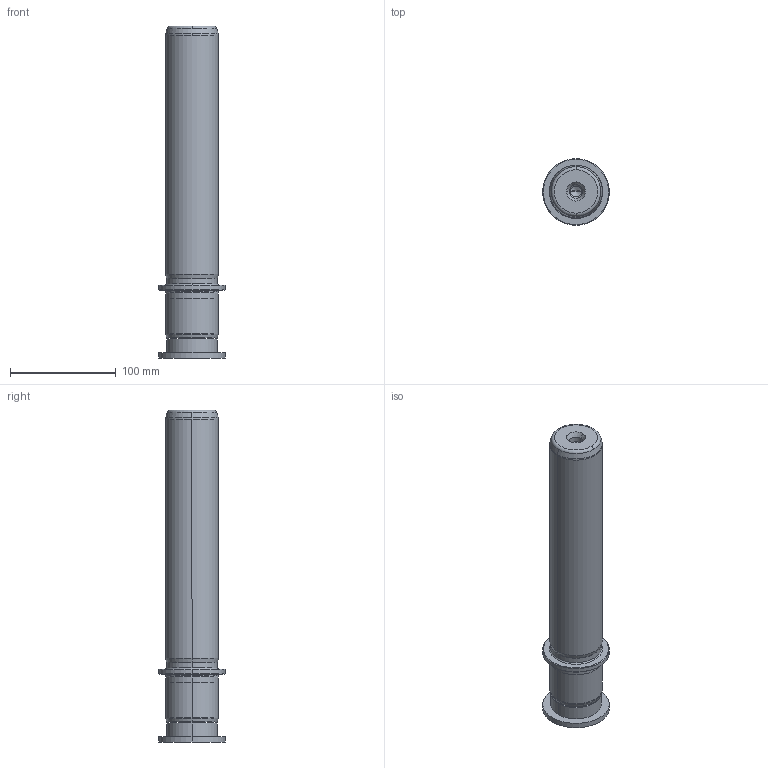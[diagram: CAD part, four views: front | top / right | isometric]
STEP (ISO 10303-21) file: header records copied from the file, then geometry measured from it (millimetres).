
FILE_DESCRIPTION((''),'2;1');
FILE_NAME('P22_050_250.stp','2009-11-02T10:50:09',(''),(''),'Mechanical Desktop 2009','Mechanical Desktop 2009',', , ');
FILE_SCHEMA(('CONFIG_CONTROL_DESIGN'));
Length unit declared in the file: millimetre
Products named in the file (2): Product; blmdl1
Assembly tree (1 placements, depth 2):
  Product
    blmdl1
Bounding box: 63 x 63 x 314 mm (x, y, z)
Volume: 614637.5 mm3; surface area: 66986.5 mm2
Topology: 3 solids, 3 shells, 99 faces, 237 edges, 149 vertices
Faces by surface type: cylinder 32, cone 28, plane 19, torus 10, bspline 10
Entity records: 3419 total; most frequent: CARTESIAN_POINT 923, DIRECTION 570, ORIENTED_EDGE 466, AXIS2_PLACEMENT_3D 246, EDGE_CURVE 233, CIRCLE 155, VERTEX_POINT 149, EDGE_LOOP 110
